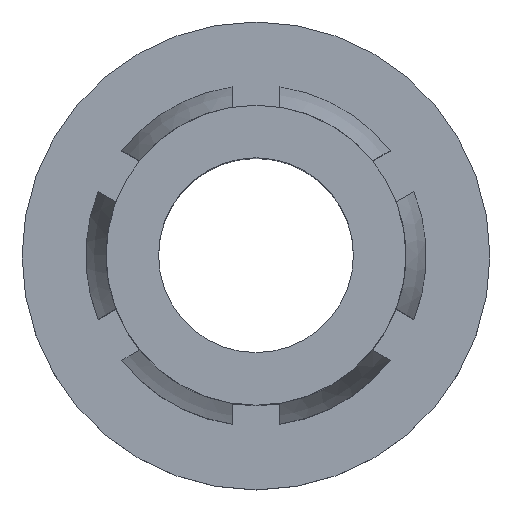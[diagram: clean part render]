
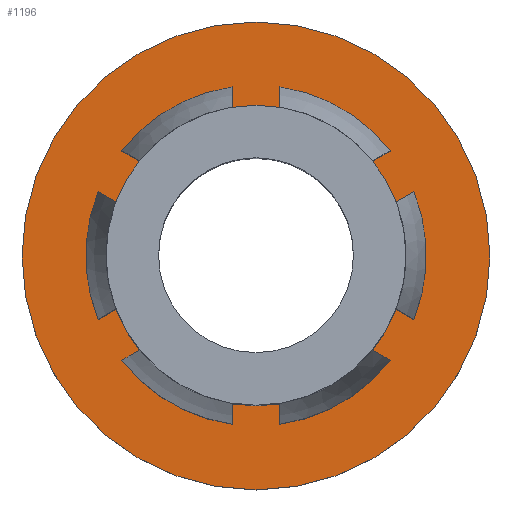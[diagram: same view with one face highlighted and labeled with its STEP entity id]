
A CAD part, top view. The second image highlights one B-rep face of the part: STEP entity #1196.
In plain terms, the highlighted planar face has unit normal (0, 0, 1).
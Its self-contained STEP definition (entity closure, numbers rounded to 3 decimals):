
#68 = EDGE_CURVE ( 'NONE', #141, #141, #841, .T. ) ;
#141 = VERTEX_POINT ( 'NONE', #847 ) ;
#320 = CIRCLE ( 'NONE', #562, 2.54 ) ;
#323 = FACE_OUTER_BOUND ( 'NONE', #736, .T. ) ;
#325 = PLANE ( 'NONE',  #516 ) ;
#336 = AXIS2_PLACEMENT_3D ( 'NONE', #1415, #698, #1548 ) ;
#364 = DIRECTION ( 'NONE',  ( -1., 0., 0. ) ) ;
#372 = FACE_BOUND ( 'NONE', #1509, .T. ) ;
#406 = DIRECTION ( 'NONE',  ( 0., 0., -1. ) ) ;
#471 = ORIENTED_EDGE ( 'NONE', *, *, #68, .F. ) ;
#477 = CARTESIAN_POINT ( 'NONE',  ( 8.938, 0., -19.146 ) ) ;
#516 = AXIS2_PLACEMENT_3D ( 'NONE', #1051, #1538, #1536 ) ;
#562 = AXIS2_PLACEMENT_3D ( 'NONE', #477, #406, #364 ) ;
#651 = CARTESIAN_POINT ( 'NONE',  ( 6.398, 0., -19.146 ) ) ;
#698 = DIRECTION ( 'NONE',  ( 0., 0., -1. ) ) ;
#705 = EDGE_CURVE ( 'NONE', #1014, #1014, #320, .T. ) ;
#736 = EDGE_LOOP ( 'NONE', ( #471 ) ) ;
#841 = CIRCLE ( 'NONE', #336, 3.962 ) ;
#847 = CARTESIAN_POINT ( 'NONE',  ( 4.975, 0., -19.146 ) ) ;
#1014 = VERTEX_POINT ( 'NONE', #651 ) ;
#1051 = CARTESIAN_POINT ( 'NONE',  ( 12.9, 0., -19.146 ) ) ;
#1052 = ORIENTED_EDGE ( 'NONE', *, *, #705, .T. ) ;
#1196 = ADVANCED_FACE ( 'NONE', ( #372, #323 ), #325, .F. ) ;
#1415 = CARTESIAN_POINT ( 'NONE',  ( 8.938, 0., -19.146 ) ) ;
#1509 = EDGE_LOOP ( 'NONE', ( #1052 ) ) ;
#1536 = DIRECTION ( 'NONE',  ( -1., 0., 0. ) ) ;
#1538 = DIRECTION ( 'NONE',  ( 0., 0., -1. ) ) ;
#1548 = DIRECTION ( 'NONE',  ( -1., 0., 0. ) ) ;
